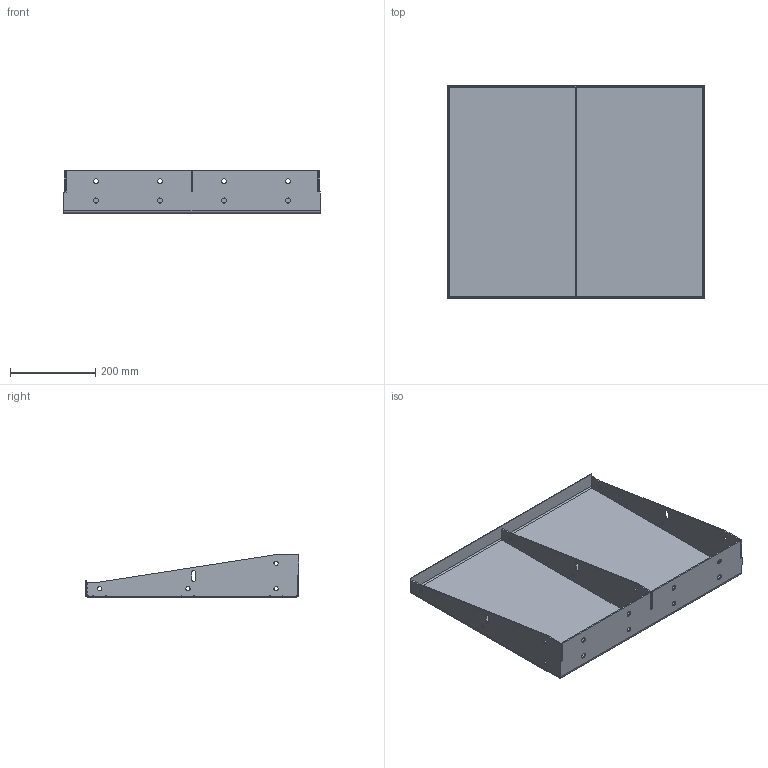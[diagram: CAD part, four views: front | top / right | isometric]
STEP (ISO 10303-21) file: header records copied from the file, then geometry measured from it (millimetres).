
FILE_DESCRIPTION (( 'STEP AP203' ), '1' );
FILE_NAME ('STRAIGHT.STEP', '2026-03-31T12:02:25', ( '' ), ( '' ), 'SwSTEP 2.0', 'SolidWorks 2025', '' );
FILE_SCHEMA (( 'CONFIG_CONTROL_DESIGN' ));
Length unit declared in the file: millimetre
Products named in the file (3): STRAIGHT; GS2; Part1^STRAIGHT
Assembly tree (4 placements, depth 2):
  STRAIGHT
    Part1^STRAIGHT
    GS2  x3
Bounding box: 600 x 500 x 100 mm (x, y, z)
Volume: 1418670.9 mm3; surface area: 966213.2 mm2
Topology: 4 solids, 4 shells, 178 faces, 494 edges, 324 vertices
Faces by surface type: cylinder 92, plane 86
Entity records: 3247 total; most frequent: DIRECTION 524, CARTESIAN_POINT 495, ORIENTED_EDGE 484, EDGE_CURVE 242, AXIS2_PLACEMENT_3D 185, VERTEX_POINT 156, LINE 154, VECTOR 154
